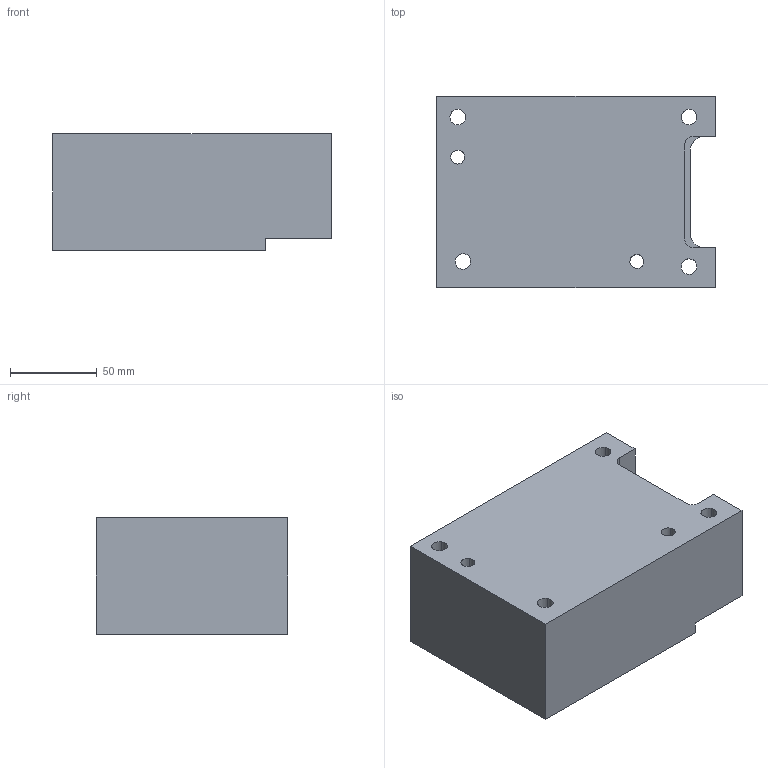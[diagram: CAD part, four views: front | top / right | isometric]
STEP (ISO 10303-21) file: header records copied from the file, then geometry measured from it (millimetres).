
FILE_DESCRIPTION(('CATIA V5 STEP Exchange','CAx-IF Rec.Pracs.--- Model Styling and Organization---1.5--- 2016-08-15','CAx-IF Rec.Pracs.---Supplemental Geometry---1.0---2011-11-01','CAx-IF Rec.Pracs.--- Composite Materials ---1.1---2010-07-15','CAx-IF Rec.Pracs.---External References---2.1---2005-01-19'),'2;1');
FILE_NAME('E:\WAT\Sprezarka\121_00_00_Tlocznik1\Tlocznik1_KPL\Tlocznik1_stp\121_01_02_Matryca.stp','2023-08-01T08:49:43+00:00',('none'),('none'),'CATIA Version 5-6 Release 2022 SP3','CATIA V5 STEP AP214 v2','none');
FILE_SCHEMA(('AUTOMOTIVE_DESIGN { 1 0 10303 214 1 1 1 1 }'));
Length unit declared in the file: millimetre
Products named in the file (1): 121_01_02_Matryca
Bounding box: 160 x 110 x 67 mm (x, y, z)
Volume: 841286.2 mm3; surface area: 85236.4 mm2
Topology: 1 solids, 1 shells, 105 faces, 290 edges, 187 vertices
Faces by surface type: bspline 38, plane 36, cylinder 31
Entity records: 7862 total; most frequent: CARTESIAN_POINT 5470, ORIENTED_EDGE 576, EDGE_CURVE 288, DIRECTION 269, VERTEX_POINT 187, EDGE_LOOP 119, B_SPLINE_CURVE_WITH_KNOTS 115, AXIS2_PLACEMENT_3D 112
